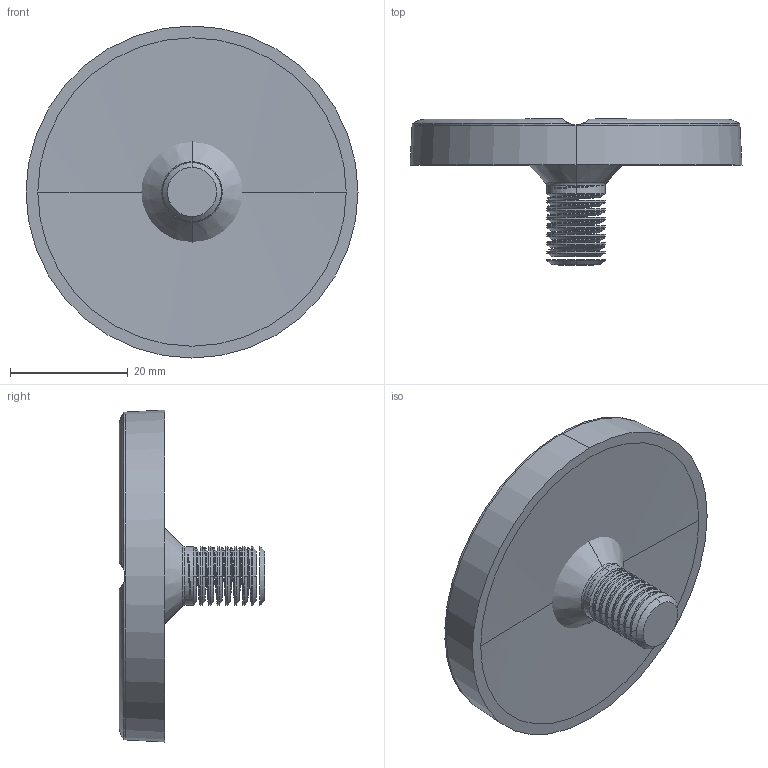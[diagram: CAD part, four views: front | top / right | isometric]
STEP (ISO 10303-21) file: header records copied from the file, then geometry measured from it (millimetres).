
FILE_DESCRIPTION (( 'STEP AP203' ), '1' );
FILE_NAME ('06.11.055-0 Stacking Bumper F_Multifunctional Leg Bracket Curly Black.STEP', '2024-12-18T11:21:35', ( '' ), ( '' ), 'SwSTEP 2.0', 'SolidWorks 2024', '' );
FILE_SCHEMA (( 'CONFIG_CONTROL_DESIGN' ));
Length unit declared in the file: millimetre
Products named in the file (1): 06.11.055-0 Stacking Bumper F_Multifunctional Leg Bracket Curly Black
Bounding box: 56.5 x 24.8 x 56.5 mm (x, y, z)
Surface area: 7473.2 mm2 (no closed solid volume)
Topology: 0 solids, 11 shells, 158 faces, 412 edges, 258 vertices
Faces by surface type: cylinder 94, cone 25, plane 18, torus 18, sphere 2, bspline 1
Entity records: 7231 total; most frequent: CARTESIAN_POINT 3625, ORIENTED_EDGE 755, DIRECTION 714, EDGE_CURVE 412, AXIS2_PLACEMENT_3D 285, VERTEX_POINT 258, EDGE_LOOP 159, ADVANCED_FACE 158
